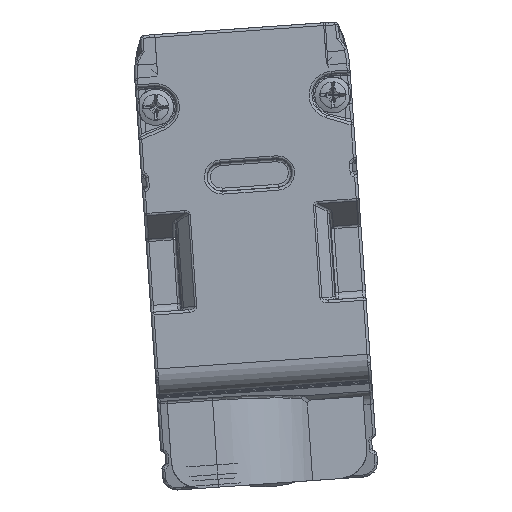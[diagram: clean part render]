
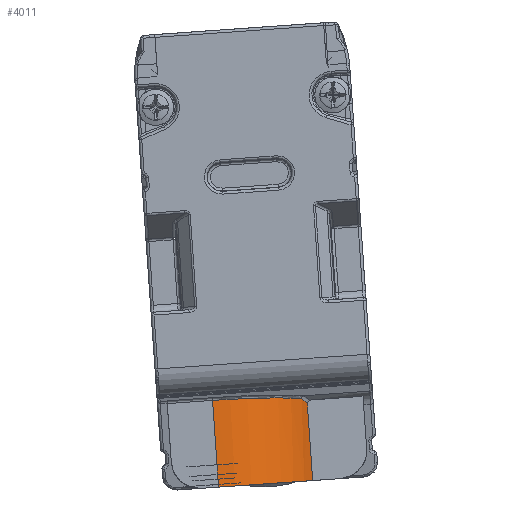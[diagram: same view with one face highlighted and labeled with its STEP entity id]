
A CAD part, front view. The second image highlights one B-rep face of the part: STEP entity #4011.
In plain terms, the highlighted cylindrical face has radius 7.5 mm (diameter 15 mm), a partial arc.
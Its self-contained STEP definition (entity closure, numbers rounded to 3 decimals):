
#392=ELLIPSE('',#22541,7.53,7.5);
#722=B_SPLINE_CURVE_WITH_KNOTS('',3,(#41400,#41401,#41402,#41403,#41404,
#41405,#41406),.UNSPECIFIED.,.F.,.F.,(4,3,4),(0.,0.485,1.),.UNSPECIFIED.);
#1576=CYLINDRICAL_SURFACE('',#22543,7.5);
#2963=CIRCLE('',#22542,7.5);
#4011=ADVANCED_FACE('',(#5284),#1576,.T.);
#5284=FACE_OUTER_BOUND('',#6355,.T.);
#6355=EDGE_LOOP('',(#11138,#11139,#11140,#11141,#11142));
#11138=ORIENTED_EDGE('',*,*,#16968,.T.);
#11139=ORIENTED_EDGE('',*,*,#16969,.T.);
#11140=ORIENTED_EDGE('',*,*,#16970,.T.);
#11141=ORIENTED_EDGE('',*,*,#16971,.T.);
#11142=ORIENTED_EDGE('',*,*,#16972,.F.);
#13797=VERTEX_POINT('',#41398);
#13798=VERTEX_POINT('',#41399);
#13799=VERTEX_POINT('',#41407);
#13800=VERTEX_POINT('',#41409);
#13801=VERTEX_POINT('',#41411);
#16968=EDGE_CURVE('',#13797,#13798,#18662,.T.);
#16969=EDGE_CURVE('',#13798,#13799,#722,.T.);
#16970=EDGE_CURVE('',#13799,#13800,#392,.T.);
#16971=EDGE_CURVE('',#13800,#13801,#18663,.T.);
#16972=EDGE_CURVE('',#13797,#13801,#2963,.T.);
#18662=LINE('',#41397,#20174);
#18663=LINE('',#41410,#20175);
#20174=VECTOR('',#28309,1.);
#20175=VECTOR('',#28312,1.);
#22541=AXIS2_PLACEMENT_3D('',#41408,#28310,#28311);
#22542=AXIS2_PLACEMENT_3D('',#41412,#28313,#28314);
#22543=AXIS2_PLACEMENT_3D('',#41413,#28315,#28316);
#28309=DIRECTION('',(-0.07,0.,0.998));
#28310=DIRECTION('',(0.069,-0.089,-0.994));
#28311=DIRECTION('',(0.006,0.996,-0.089));
#28312=DIRECTION('',(0.07,0.,-0.998));
#28313=DIRECTION('',(0.07,0.,-0.998));
#28314=DIRECTION('',(0.998,0.,0.07));
#28315=DIRECTION('',(0.07,0.,-0.998));
#28316=DIRECTION('',(0.,-1.,0.));
#41397=CARTESIAN_POINT('',(-40.701,-890.597,14.888));
#41398=CARTESIAN_POINT('',(-40.701,-890.597,14.888));
#41399=CARTESIAN_POINT('',(-41.088,-890.597,20.435));
#41400=CARTESIAN_POINT('',(-41.088,-890.597,20.435));
#41401=CARTESIAN_POINT('',(-41.139,-890.686,20.528));
#41402=CARTESIAN_POINT('',(-41.198,-890.793,20.603));
#41403=CARTESIAN_POINT('',(-41.263,-890.905,20.654));
#41404=CARTESIAN_POINT('',(-41.332,-891.024,20.708));
#41405=CARTESIAN_POINT('',(-41.408,-891.152,20.738));
#41406=CARTESIAN_POINT('',(-41.487,-891.278,20.743));
#41407=CARTESIAN_POINT('',(-41.487,-891.278,20.743));
#41408=CARTESIAN_POINT('',(-47.816,-887.318,19.944));
#41409=CARTESIAN_POINT('',(-47.863,-894.818,20.616));
#41410=CARTESIAN_POINT('',(-47.667,-894.818,17.815));
#41411=CARTESIAN_POINT('',(-47.43,-894.818,14.418));
#41412=CARTESIAN_POINT('',(-47.43,-887.318,14.418));
#41413=CARTESIAN_POINT('',(-52.434,-887.318,85.982));
